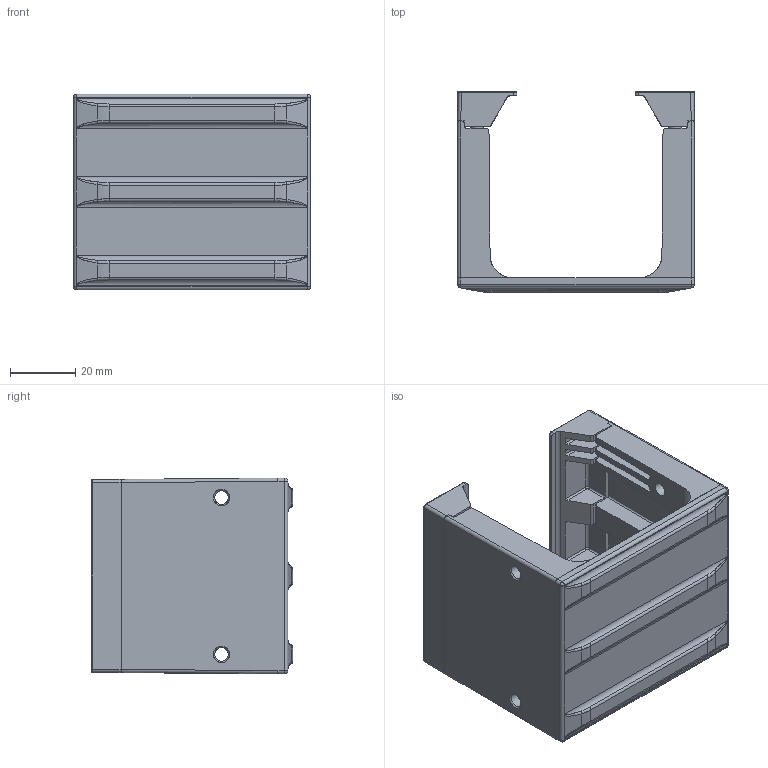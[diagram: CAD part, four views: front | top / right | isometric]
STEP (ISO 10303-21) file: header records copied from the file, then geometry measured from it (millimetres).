
FILE_DESCRIPTION(/* description */ (''),/* implementation_level */ '2;1');
FILE_NAME(/* name */ 'DSD-0589.stp',/* time_stamp */ '2015-03-10T15:32:51+01:00',/* author */ (''),/* organization */ (''),/* preprocessor_version */ 'ST-DEVELOPER v11',/* originating_system */ 'SIEMENS PLM Software NX 7.5',/* authorisation */ '');
FILE_SCHEMA (('AUTOMOTIVE_DESIGN { 1 0 10303 214 1 1 1 1 }'));
Length unit declared in the file: millimetre
Products named in the file (1): model6
Bounding box: 72.5 x 61.65 x 60 mm (x, y, z)
Surface area: 35381.3 mm2 (no closed solid volume)
Topology: 0 solids, 429 shells, 429 faces, 2213 edges, 2197 vertices
Faces by surface type: cylinder 196, plane 154, bspline 53, cone 22, sphere 4
Full cylindrical faces by diameter (mm): 3.838 x2, 4.2 x4
Entity records: 27529 total; most frequent: CARTESIAN_POINT 9710, VERTEX_POINT 2197, ORIENTED_EDGE 2195, EDGE_CURVE 2195, DIRECTION 2114, LINE 916, VECTOR 916, B_SPLINE_CURVE_WITH_KNOTS 857
